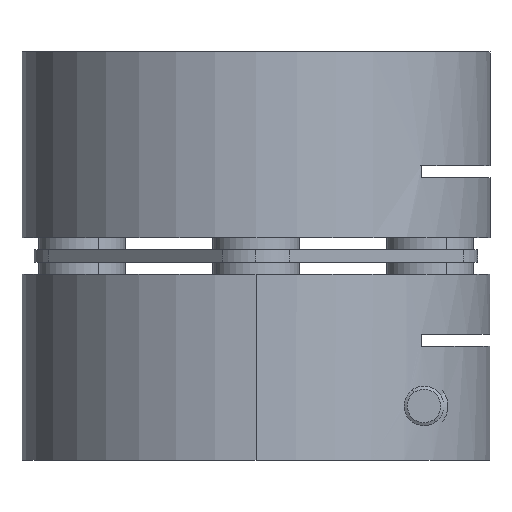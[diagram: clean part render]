
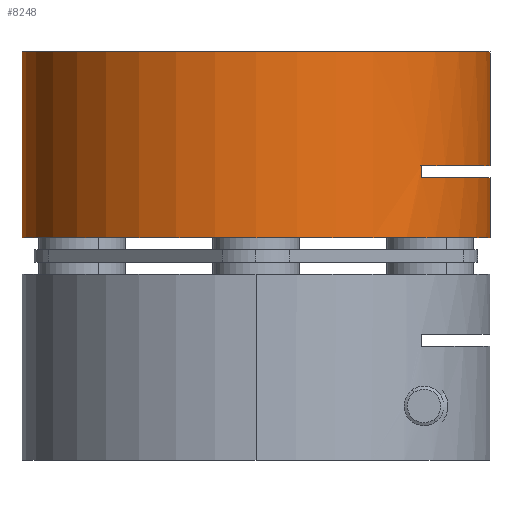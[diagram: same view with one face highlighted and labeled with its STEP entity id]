
A CAD part, front view. The second image highlights one B-rep face of the part: STEP entity #8248.
In plain terms, the highlighted cylindrical face has radius 19.5 mm (diameter 39 mm), a partial arc.
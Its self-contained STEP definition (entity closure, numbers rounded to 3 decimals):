
#110 = LINE ( 'NONE', #3237, #10601 ) ;
#164 = LINE ( 'NONE', #3114, #12984 ) ;
#169 = DIRECTION ( 'NONE',  ( 0., 0., -1. ) ) ;
#459 = DIRECTION ( 'NONE',  ( 0., 0., -1. ) ) ;
#780 = CIRCLE ( 'NONE', #2227, 19.5 ) ;
#975 = DIRECTION ( 'NONE',  ( 0., 0., 1. ) ) ;
#988 = CARTESIAN_POINT ( 'NONE',  ( 12.822, 37.663, 108.096 ) ) ;
#1070 = CARTESIAN_POINT ( 'NONE',  ( -26.178, 37.663, 117.596 ) ) ;
#1072 = DIRECTION ( 'NONE',  ( 0., 0., 1. ) ) ;
#1144 = VERTEX_POINT ( 'NONE', #11065 ) ;
#1452 = VERTEX_POINT ( 'NONE', #988 ) ;
#1746 = CARTESIAN_POINT ( 'NONE',  ( 12.822, 37.663, 102.096 ) ) ;
#1800 = VERTEX_POINT ( 'NONE', #6386 ) ;
#1905 = DIRECTION ( 'NONE',  ( -1., 0., 0. ) ) ;
#1921 = ORIENTED_EDGE ( 'NONE', *, *, #9630, .F. ) ;
#2049 = DIRECTION ( 'NONE',  ( 0., 0., -1. ) ) ;
#2057 = EDGE_LOOP ( 'NONE', ( #8029, #1921, #7898, #7360, #7532, #9961, #7214, #2411 ) ) ;
#2089 = CARTESIAN_POINT ( 'NONE',  ( -6.678, 37.663, 107.096 ) ) ;
#2227 = AXIS2_PLACEMENT_3D ( 'NONE', #7149, #1072, #8213 ) ;
#2411 = ORIENTED_EDGE ( 'NONE', *, *, #2859, .F. ) ;
#2558 = FACE_OUTER_BOUND ( 'NONE', #2057, .T. ) ;
#2784 = CARTESIAN_POINT ( 'NONE',  ( -26.178, 37.663, 102.096 ) ) ;
#2791 = DIRECTION ( 'NONE',  ( 0., 0., 1. ) ) ;
#2813 = VERTEX_POINT ( 'NONE', #1746 ) ;
#2859 = EDGE_CURVE ( 'NONE', #1452, #8046, #3096, .T. ) ;
#3096 = CIRCLE ( 'NONE', #5260, 19.5 ) ;
#3114 = CARTESIAN_POINT ( 'NONE',  ( 12.822, 37.663, 117.596 ) ) ;
#3174 = CARTESIAN_POINT ( 'NONE',  ( 7.111, 23.874, 108.096 ) ) ;
#3237 = CARTESIAN_POINT ( 'NONE',  ( 12.822, 37.663, 117.596 ) ) ;
#3248 = DIRECTION ( 'NONE',  ( 0., 0., -1. ) ) ;
#3283 = DIRECTION ( 'NONE',  ( -1., 0., 0. ) ) ;
#3311 = AXIS2_PLACEMENT_3D ( 'NONE', #4245, #3248, #3283 ) ;
#3922 = CIRCLE ( 'NONE', #12225, 19.5 ) ;
#4008 = EDGE_CURVE ( 'NONE', #9790, #7914, #10979, .T. ) ;
#4143 = EDGE_CURVE ( 'NONE', #7890, #2813, #164, .T. ) ;
#4245 = CARTESIAN_POINT ( 'NONE',  ( -6.678, 37.663, 117.596 ) ) ;
#4776 = EDGE_CURVE ( 'NONE', #7890, #1800, #3922, .T. ) ;
#4790 = DIRECTION ( 'NONE',  ( -1., 0., 0. ) ) ;
#5124 = AXIS2_PLACEMENT_3D ( 'NONE', #8982, #2791, #9997 ) ;
#5260 = AXIS2_PLACEMENT_3D ( 'NONE', #5347, #169, #4790 ) ;
#5347 = CARTESIAN_POINT ( 'NONE',  ( -6.678, 37.663, 108.096 ) ) ;
#5462 = VECTOR ( 'NONE', #459, 1000. ) ;
#5988 = CARTESIAN_POINT ( 'NONE',  ( 7.111, 23.874, 117.596 ) ) ;
#6386 = CARTESIAN_POINT ( 'NONE',  ( 7.111, 23.874, 107.096 ) ) ;
#6910 = CYLINDRICAL_SURFACE ( 'NONE', #3311, 19.5 ) ;
#7149 = CARTESIAN_POINT ( 'NONE',  ( -6.678, 37.663, 117.596 ) ) ;
#7214 = ORIENTED_EDGE ( 'NONE', *, *, #10529, .T. ) ;
#7260 = VECTOR ( 'NONE', #975, 1000. ) ;
#7360 = ORIENTED_EDGE ( 'NONE', *, *, #8664, .T. ) ;
#7532 = ORIENTED_EDGE ( 'NONE', *, *, #4143, .F. ) ;
#7890 = VERTEX_POINT ( 'NONE', #11959 ) ;
#7898 = ORIENTED_EDGE ( 'NONE', *, *, #4008, .T. ) ;
#7914 = VERTEX_POINT ( 'NONE', #2784 ) ;
#8029 = ORIENTED_EDGE ( 'NONE', *, *, #8488, .F. ) ;
#8046 = VERTEX_POINT ( 'NONE', #3174 ) ;
#8213 = DIRECTION ( 'NONE',  ( 1., 0., 0. ) ) ;
#8248 = ADVANCED_FACE ( 'NONE', ( #2558 ), #6910, .T. ) ;
#8488 = EDGE_CURVE ( 'NONE', #1144, #1452, #110, .T. ) ;
#8544 = CARTESIAN_POINT ( 'NONE',  ( -26.178, 37.663, 117.596 ) ) ;
#8664 = EDGE_CURVE ( 'NONE', #7914, #2813, #10576, .T. ) ;
#8982 = CARTESIAN_POINT ( 'NONE',  ( -6.678, 37.663, 102.096 ) ) ;
#9630 = EDGE_CURVE ( 'NONE', #9790, #1144, #780, .T. ) ;
#9790 = VERTEX_POINT ( 'NONE', #1070 ) ;
#9961 = ORIENTED_EDGE ( 'NONE', *, *, #4776, .T. ) ;
#9997 = DIRECTION ( 'NONE',  ( 1., 0., 0. ) ) ;
#10013 = LINE ( 'NONE', #5988, #7260 ) ;
#10445 = DIRECTION ( 'NONE',  ( 0., 0., -1. ) ) ;
#10529 = EDGE_CURVE ( 'NONE', #1800, #8046, #10013, .T. ) ;
#10576 = CIRCLE ( 'NONE', #5124, 19.5 ) ;
#10601 = VECTOR ( 'NONE', #10445, 1000. ) ;
#10979 = LINE ( 'NONE', #8544, #5462 ) ;
#11000 = DIRECTION ( 'NONE',  ( 0., 0., -1. ) ) ;
#11065 = CARTESIAN_POINT ( 'NONE',  ( 12.822, 37.663, 117.596 ) ) ;
#11959 = CARTESIAN_POINT ( 'NONE',  ( 12.822, 37.663, 107.096 ) ) ;
#12225 = AXIS2_PLACEMENT_3D ( 'NONE', #2089, #2049, #1905 ) ;
#12984 = VECTOR ( 'NONE', #11000, 1000. ) ;
